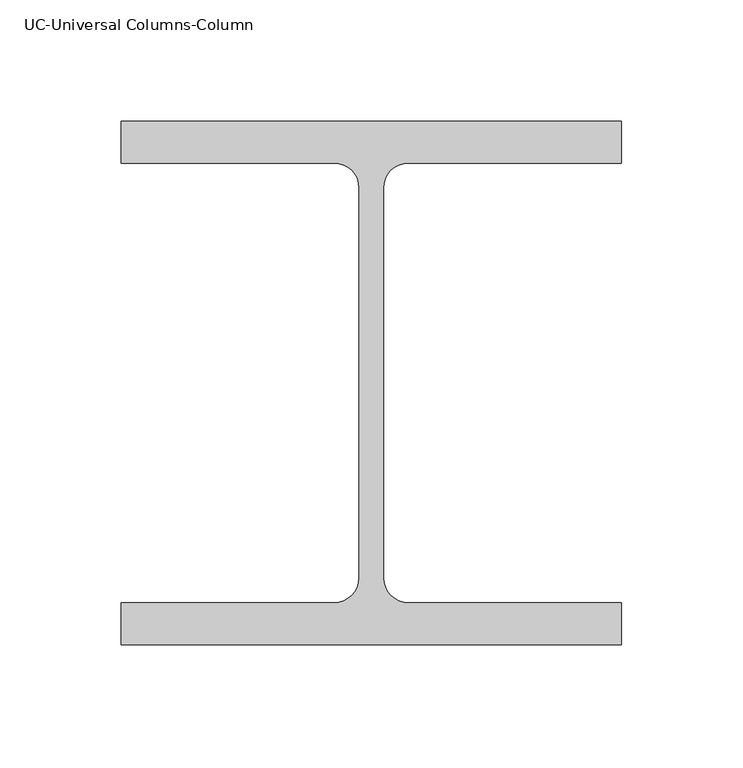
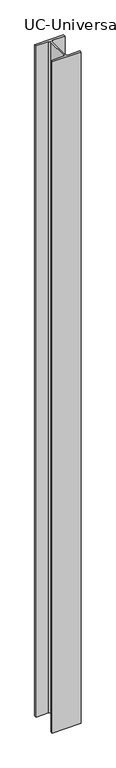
"""IFC4 building model written with IfcOpenShell, lengths in millimetres: column geometry."""

from ifc_helpers import new_model, si_unit, point, frame, frame_2d, origin, place, context, project, spatial, polyline, circle_curve, trimmed, segment, composite_curve, outline, extrude, source, transform, mapped, element, save


def uc_universal_columns_column_fe7b5fb6(model_context):
    return source(origin(), model_context, "Body", "SweptSolid", [
        extrude(outline(composite_curve([segment(polyline([(103.2, 107.9), (103.2, 90.6), (15.2, 90.6)]), True, "CONTINUOUS"), segment(trimmed(circle_curve(frame_2d((15.2, 80.4)), 10.2), [point((15.2, 90.6))], [point((5.0, 80.4))], True, "CARTESIAN"), True, "CONTINUOUS"), segment(polyline([(5.0, 80.4), (5.0, -80.4)]), True, "CONTINUOUS"), segment(trimmed(circle_curve(frame_2d((15.2, -80.4)), 10.2), [point((5.0, -80.4))], [point((15.2, -90.6))], True, "CARTESIAN"), True, "CONTINUOUS"), segment(polyline([(15.2, -90.6), (103.2, -90.6), (103.2, -107.9), (-103.2, -107.9), (-103.2, -90.6), (-15.2, -90.6)]), True, "CONTINUOUS"), segment(trimmed(circle_curve(frame_2d((-15.2, -80.4)), 10.2), [point((-15.2, -90.6))], [point((-5.0, -80.4))], True, "CARTESIAN"), True, "CONTINUOUS"), segment(polyline([(-5.0, -80.4), (-5.0, 80.4)]), True, "CONTINUOUS"), segment(trimmed(circle_curve(frame_2d((-15.2, 80.4)), 10.2), [point((-5.0, 80.4))], [point((-15.2, 90.6))], True, "CARTESIAN"), True, "CONTINUOUS"), segment(polyline([(-15.2, 90.6), (-103.2, 90.6), (-103.2, 107.9), (103.2, 107.9)]), True, "CONTINUOUS")], self_intersect=False)), frame((0.0, 0.0, -450.0), z_axis=(0.0, 0.0, 1.0), x_axis=(1.0, 0.0, 0.0)), (0.0, 0.0, 1.0), 5045.0),
    ])


if __name__ == "__main__":
    model = new_model("IFC4")
    model_context = context("Model", 3, world=origin())
    ifc_project = project(units=[si_unit("LENGTHUNIT", "METRE", prefix="MILLI")], contexts=[model_context])
    site = spatial("IfcSite", under=ifc_project)
    building = spatial("IfcBuilding", under=site)
    placement = place(None, origin())
    uc_universal_columns_column_shape = uc_universal_columns_column_fe7b5fb6(model_context)
    element("IfcColumn", 1, ObjectType="UC-Universal Columns-Column : UC 8\" x 8\" x 3\"", at=placement, inside=building, context=model_context, shape_type="MappedRepresentation", body=[
        mapped(uc_universal_columns_column_shape, transform((0.0, 0.0, 0.0), x_axis=(1.0, 0.0, 0.0), y_axis=(0.0, 1.0, 0.0), z_axis=(0.0, 0.0, 1.0))),
    ])
    save(model, "model.ifc")
